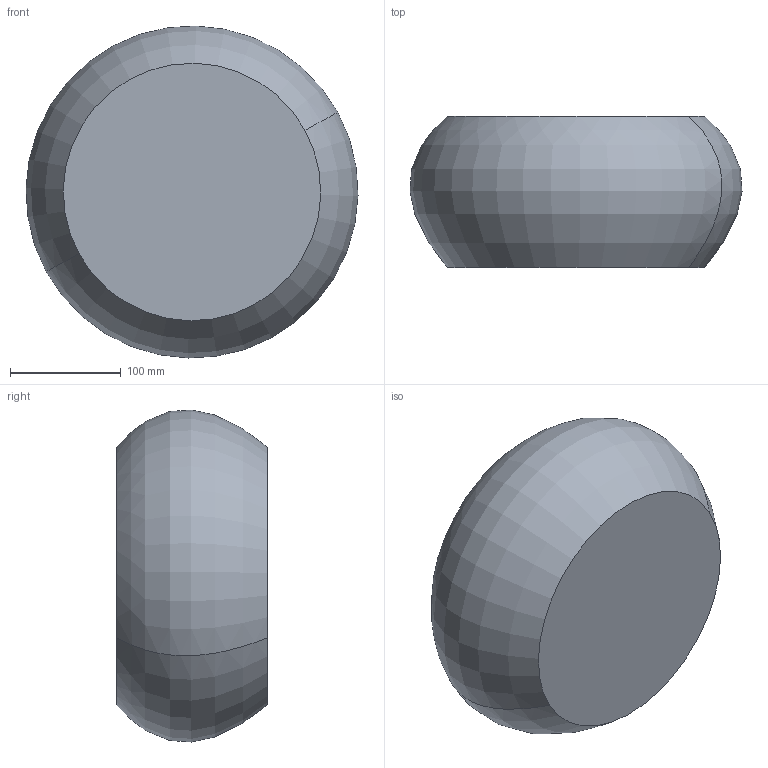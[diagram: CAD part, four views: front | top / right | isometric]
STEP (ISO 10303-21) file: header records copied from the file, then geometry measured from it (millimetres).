
FILE_DESCRIPTION(('CATIA V5 STEP Exchange'),'2;1');
FILE_NAME('C:\_Andres\UNIVERSIDAD\IQS\ASIGNATURAS\DAO\EXF\EXF-15161c\1original\Subirada_Blanco_Ej10-decora_v26.stp','2016-03-04T22:24:14+00:00',('none'),('none'),'CATIA Version 5 Release 20 SP 1 (IN-10)','CATIA V5 STEP AP203','none');
FILE_SCHEMA(('CONFIG_CONTROL_DESIGN'));
Length unit declared in the file: millimetre
Products named in the file (1): Subirada_Blanco_Ej10-decora_v26
Bounding box: 299.14 x 136 x 299.14 mm (x, y, z)
Volume: 8244314 mm3; surface area: 219331 mm2
Topology: 1 solids, 1 shells, 4 faces, 6 edges, 4 vertices
Faces by surface type: revolution 2, plane 2
Entity records: 166 total; most frequent: CARTESIAN_POINT 50, DIRECTION 12, ORIENTED_EDGE 12, AXIS2_PLACEMENT_3D 8, EDGE_CURVE 6, ADVANCED_FACE 4, B_SPLINE_CURVE_WITH_KNOTS 4, CC_DESIGN_PERSON_AND_ORGANIZATION_ASSIGNMENT 4
